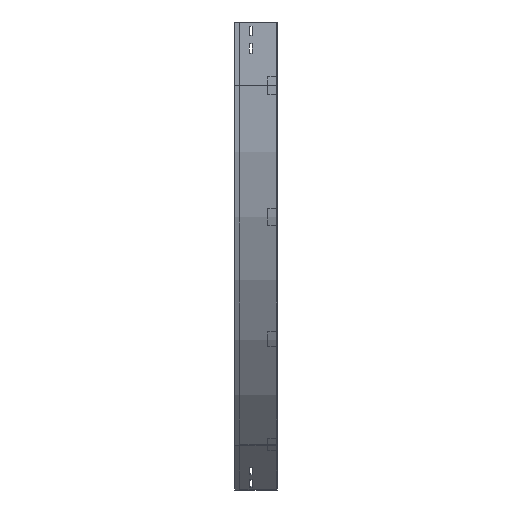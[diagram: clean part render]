
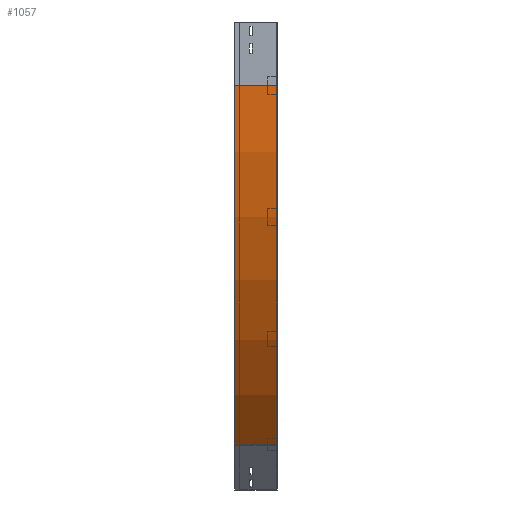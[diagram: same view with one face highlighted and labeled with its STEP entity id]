
A CAD part, left-side view. The second image highlights one B-rep face of the part: STEP entity #1057.
In plain terms, the highlighted cylindrical face has radius 1200 mm (diameter 2400 mm), a partial arc.
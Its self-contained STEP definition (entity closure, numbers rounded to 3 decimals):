
#37 = CIRCLE ( 'NONE', #2870, 1200. ) ;
#74 = DIRECTION ( 'NONE',  ( 0., -1., 0. ) ) ;
#202 = EDGE_CURVE ( 'NONE', #2452, #3767, #1442, .T. ) ;
#283 = DIRECTION ( 'NONE',  ( 0., -1., 0. ) ) ;
#336 = FACE_OUTER_BOUND ( 'NONE', #1211, .T. ) ;
#353 = VECTOR ( 'NONE', #74, 1000. ) ;
#597 = ORIENTED_EDGE ( 'NONE', *, *, #3160, .T. ) ;
#612 = DIRECTION ( 'NONE',  ( 0., 0., -1. ) ) ;
#673 = EDGE_CURVE ( 'NONE', #1502, #3299, #37, .T. ) ;
#741 = CARTESIAN_POINT ( 'NONE',  ( 351.472, 100., -998.528 ) ) ;
#762 = AXIS2_PLACEMENT_3D ( 'NONE', #2321, #283, #1473 ) ;
#781 = DIRECTION ( 'NONE',  ( 0., -1., 0. ) ) ;
#799 = CARTESIAN_POINT ( 'NONE',  ( 351.472, 0., -998.528 ) ) ;
#811 = CARTESIAN_POINT ( 'NONE',  ( 0., 100., -150. ) ) ;
#856 = AXIS2_PLACEMENT_3D ( 'NONE', #3584, #2696, #612 ) ;
#935 = CARTESIAN_POINT ( 'NONE',  ( 0., 0., -150. ) ) ;
#1057 = ADVANCED_FACE ( 'NONE', ( #336 ), #1504, .T. ) ;
#1181 = DIRECTION ( 'NONE',  ( -1., 0., 0. ) ) ;
#1211 = EDGE_LOOP ( 'NONE', ( #3670, #3426, #2656, #597 ) ) ;
#1249 = CARTESIAN_POINT ( 'NONE',  ( 351.472, 0., -998.528 ) ) ;
#1389 = EDGE_CURVE ( 'NONE', #2452, #1502, #1807, .T. ) ;
#1442 = CIRCLE ( 'NONE', #762, 1200. ) ;
#1473 = DIRECTION ( 'NONE',  ( -1., 0., 0. ) ) ;
#1502 = VERTEX_POINT ( 'NONE', #935 ) ;
#1504 = CYLINDRICAL_SURFACE ( 'NONE', #856, 1200. ) ;
#1807 = LINE ( 'NONE', #2102, #353 ) ;
#2102 = CARTESIAN_POINT ( 'NONE',  ( 0., 0., -150. ) ) ;
#2321 = CARTESIAN_POINT ( 'NONE',  ( 1200., 100., -150. ) ) ;
#2364 = LINE ( 'NONE', #799, #3609 ) ;
#2452 = VERTEX_POINT ( 'NONE', #811 ) ;
#2656 = ORIENTED_EDGE ( 'NONE', *, *, #202, .T. ) ;
#2696 = DIRECTION ( 'NONE',  ( 0., -1., 0. ) ) ;
#2870 = AXIS2_PLACEMENT_3D ( 'NONE', #3607, #3287, #1181 ) ;
#3160 = EDGE_CURVE ( 'NONE', #3767, #3299, #2364, .T. ) ;
#3287 = DIRECTION ( 'NONE',  ( 0., -1., 0. ) ) ;
#3299 = VERTEX_POINT ( 'NONE', #1249 ) ;
#3426 = ORIENTED_EDGE ( 'NONE', *, *, #1389, .F. ) ;
#3584 = CARTESIAN_POINT ( 'NONE',  ( 1200., 0., -150. ) ) ;
#3607 = CARTESIAN_POINT ( 'NONE',  ( 1200., 0., -150. ) ) ;
#3609 = VECTOR ( 'NONE', #781, 1000. ) ;
#3670 = ORIENTED_EDGE ( 'NONE', *, *, #673, .F. ) ;
#3767 = VERTEX_POINT ( 'NONE', #741 ) ;
